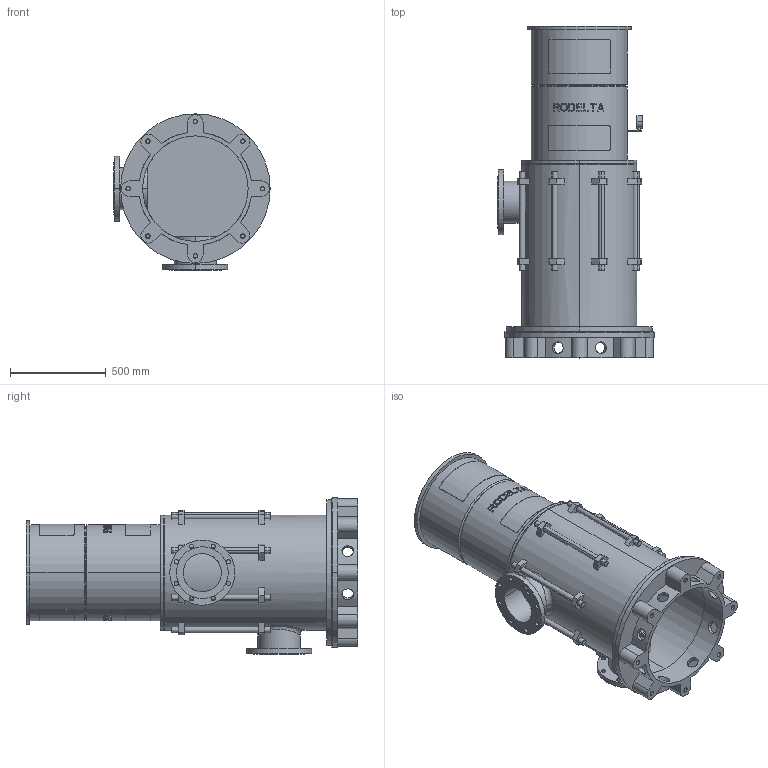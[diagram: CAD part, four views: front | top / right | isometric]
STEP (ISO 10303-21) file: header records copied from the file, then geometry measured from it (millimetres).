
FILE_DESCRIPTION((''),'2;1');
FILE_NAME('LS8_1TR_0GR','2025-10-15T15:14:35',('Lyritlocal'),(''),'CREO PARAMETRIC BY PTC INC, 2022014','CREO PARAMETRIC BY PTC INC, 2022014','');
FILE_SCHEMA(('CONFIG_CONTROL_DESIGN'));
Length unit declared in the file: millimetre
Products named in the file (1): LS8_1TR_0GR
Bounding box: 815 x 1730 x 815 mm (x, y, z)
Volume: 65153540.1 mm3; surface area: 8674258 mm2
Topology: 3 solids, 11 shells, 715 faces, 1856 edges, 1230 vertices
Faces by surface type: plane 440, cylinder 259, cone 12, bspline 4
Entity records: 23416 total; most frequent: CARTESIAN_POINT 5975, ORIENTED_EDGE 3680, DIRECTION 3434, EDGE_CURVE 1856, AXIS2_PLACEMENT_3D 1278, VERTEX_POINT 1230, VECTOR 878, LINE 878
